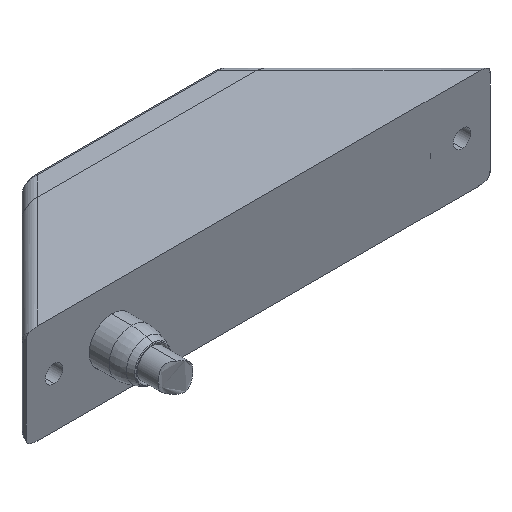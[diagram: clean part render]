
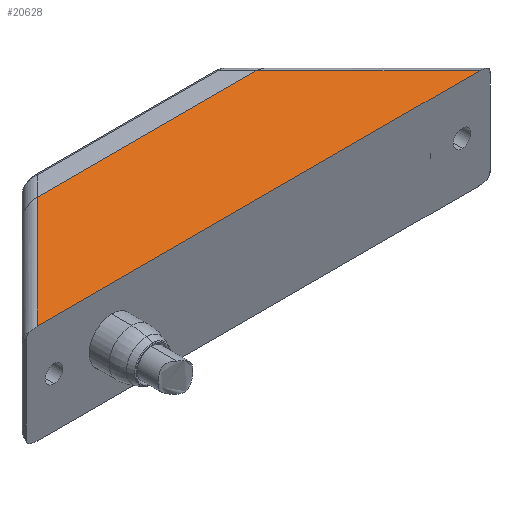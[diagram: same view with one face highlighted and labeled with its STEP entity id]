
A CAD part, isometric view. The second image highlights one B-rep face of the part: STEP entity #20628.
In plain terms, the highlighted planar face has unit normal (0, 0, 1).
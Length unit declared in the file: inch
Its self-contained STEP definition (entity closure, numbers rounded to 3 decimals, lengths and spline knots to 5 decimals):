
#878 = ORIENTED_EDGE ( 'NONE', *, *, #38416, .T. ) ;
#4335 = EDGE_CURVE ( 'NONE', #5519, #34841, #39821, .T. ) ;
#4657 = DIRECTION ( 'NONE',  ( -1., 0., 0. ) ) ;
#5519 = VERTEX_POINT ( 'NONE', #43397 ) ;
#5898 = DIRECTION ( 'NONE',  ( 1., 0., 0. ) ) ;
#7693 = AXIS2_PLACEMENT_3D ( 'NONE', #43223, #40037, #29150 ) ;
#10603 = VERTEX_POINT ( 'NONE', #25897 ) ;
#12923 = CARTESIAN_POINT ( 'NONE',  ( -2.75, 0., 0.5795 ) ) ;
#13671 = CARTESIAN_POINT ( 'NONE',  ( 0.08839, 2.66161, 0.5795 ) ) ;
#14473 = EDGE_LOOP ( 'NONE', ( #41122, #40151, #29785, #878 ) ) ;
#14996 = VECTOR ( 'NONE', #44370, 39.37008 ) ;
#16335 = VECTOR ( 'NONE', #5898, 39.37008 ) ;
#16766 = LINE ( 'NONE', #27132, #14996 ) ;
#18561 = PLANE ( 'NONE',  #7693 ) ;
#20628 = ADVANCED_FACE ( 'NONE', ( #21252 ), #18561, .F. ) ;
#21252 = FACE_OUTER_BOUND ( 'NONE', #14473, .T. ) ;
#21564 = CARTESIAN_POINT ( 'NONE',  ( -1.45, 1.3, 0.5795 ) ) ;
#24004 = LINE ( 'NONE', #13671, #35684 ) ;
#25897 = CARTESIAN_POINT ( 'NONE',  ( 1.27322, 1.3, 0.5795 ) ) ;
#27132 = CARTESIAN_POINT ( 'NONE',  ( -0.08839, 2.66161, 0.5795 ) ) ;
#27398 = CARTESIAN_POINT ( 'NONE',  ( -1.27322, 1.3, 0.5795 ) ) ;
#28039 = VECTOR ( 'NONE', #4657, 39.37008 ) ;
#29150 = DIRECTION ( 'NONE',  ( -1., 0., 0. ) ) ;
#29785 = ORIENTED_EDGE ( 'NONE', *, *, #4335, .T. ) ;
#31989 = LINE ( 'NONE', #21564, #28039 ) ;
#34841 = VERTEX_POINT ( 'NONE', #35362 ) ;
#35362 = CARTESIAN_POINT ( 'NONE',  ( 2.57322, 0., 0.5795 ) ) ;
#35379 = EDGE_CURVE ( 'NONE', #35416, #5519, #24004, .T. ) ;
#35416 = VERTEX_POINT ( 'NONE', #27398 ) ;
#35684 = VECTOR ( 'NONE', #41225, 39.37008 ) ;
#38416 = EDGE_CURVE ( 'NONE', #34841, #10603, #16766, .T. ) ;
#39821 = LINE ( 'NONE', #12923, #16335 ) ;
#40037 = DIRECTION ( 'NONE',  ( 0., 0., -1. ) ) ;
#40151 = ORIENTED_EDGE ( 'NONE', *, *, #35379, .T. ) ;
#41122 = ORIENTED_EDGE ( 'NONE', *, *, #42214, .T. ) ;
#41225 = DIRECTION ( 'NONE',  ( -0.707, -0.707, 0. ) ) ;
#42214 = EDGE_CURVE ( 'NONE', #10603, #35416, #31989, .T. ) ;
#43223 = CARTESIAN_POINT ( 'NONE',  ( 0., 2.75, 0.5795 ) ) ;
#43397 = CARTESIAN_POINT ( 'NONE',  ( -2.57322, 0., 0.5795 ) ) ;
#44370 = DIRECTION ( 'NONE',  ( -0.707, 0.707, 0. ) ) ;
